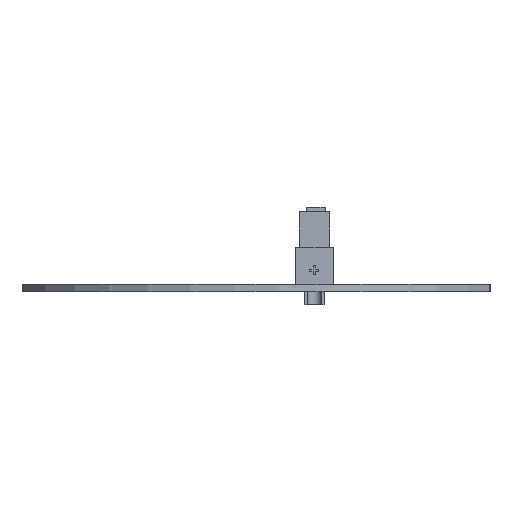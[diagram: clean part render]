
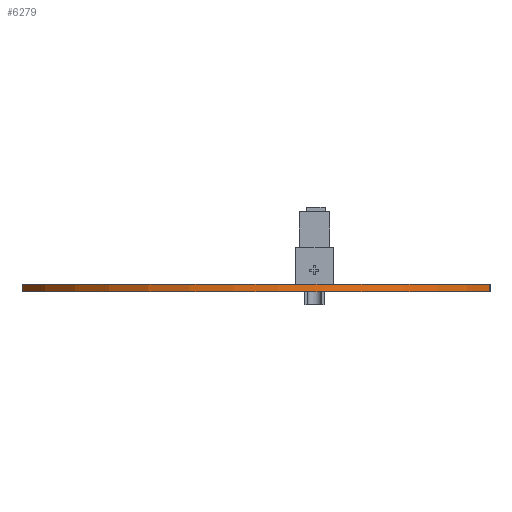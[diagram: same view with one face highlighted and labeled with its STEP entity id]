
A CAD part, front view. The second image highlights one B-rep face of the part: STEP entity #6279.
In plain terms, the highlighted cylindrical face has radius 56.796 mm (diameter 113.592 mm), a partial arc.
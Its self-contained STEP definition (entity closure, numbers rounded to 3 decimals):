
#2594 = VERTEX_POINT('',#2595);
#2595 = CARTESIAN_POINT('',(101.6,-137.16,0.));
#2601 = EDGE_CURVE('',#2602,#2594,#2604,.T.);
#2602 = VERTEX_POINT('',#2603);
#2603 = CARTESIAN_POINT('',(203.2,-137.16,0.));
#2604 = CIRCLE('',#2605,56.796);
#2605 = AXIS2_PLACEMENT_3D('',#2606,#2607,#2608);
#2606 = CARTESIAN_POINT('',(152.4,-111.76,0.));
#2607 = DIRECTION('',(-0.,0.,-1.));
#2608 = DIRECTION('',(0.894,-0.447,-0.));
#4423 = VERTEX_POINT('',#4424);
#4424 = CARTESIAN_POINT('',(101.6,-137.16,1.6));
#4430 = EDGE_CURVE('',#4431,#4423,#4433,.T.);
#4431 = VERTEX_POINT('',#4432);
#4432 = CARTESIAN_POINT('',(203.2,-137.16,1.6));
#4433 = CIRCLE('',#4434,56.796);
#4434 = AXIS2_PLACEMENT_3D('',#4435,#4436,#4437);
#4435 = CARTESIAN_POINT('',(152.4,-111.76,1.6));
#4436 = DIRECTION('',(-0.,0.,-1.));
#4437 = DIRECTION('',(0.894,-0.447,-0.));
#6249 = EDGE_CURVE('',#2594,#4423,#6250,.T.);
#6250 = LINE('',#6251,#6252);
#6251 = CARTESIAN_POINT('',(101.6,-137.16,0.));
#6252 = VECTOR('',#6253,1.);
#6253 = DIRECTION('',(0.,0.,1.));
#6268 = EDGE_CURVE('',#2602,#4431,#6269,.T.);
#6269 = LINE('',#6270,#6271);
#6270 = CARTESIAN_POINT('',(203.2,-137.16,0.));
#6271 = VECTOR('',#6272,1.);
#6272 = DIRECTION('',(0.,0.,1.));
#6279 = ADVANCED_FACE('',(#6280),#6286,.T.);
#6280 = FACE_BOUND('',#6281,.T.);
#6281 = EDGE_LOOP('',(#6282,#6283,#6284,#6285));
#6282 = ORIENTED_EDGE('',*,*,#6268,.T.);
#6283 = ORIENTED_EDGE('',*,*,#4430,.T.);
#6284 = ORIENTED_EDGE('',*,*,#6249,.F.);
#6285 = ORIENTED_EDGE('',*,*,#2601,.F.);
#6286 = CYLINDRICAL_SURFACE('',#6287,56.796);
#6287 = AXIS2_PLACEMENT_3D('',#6288,#6289,#6290);
#6288 = CARTESIAN_POINT('',(152.4,-111.76,0.));
#6289 = DIRECTION('',(-0.,0.,-1.));
#6290 = DIRECTION('',(0.894,-0.447,-0.));
